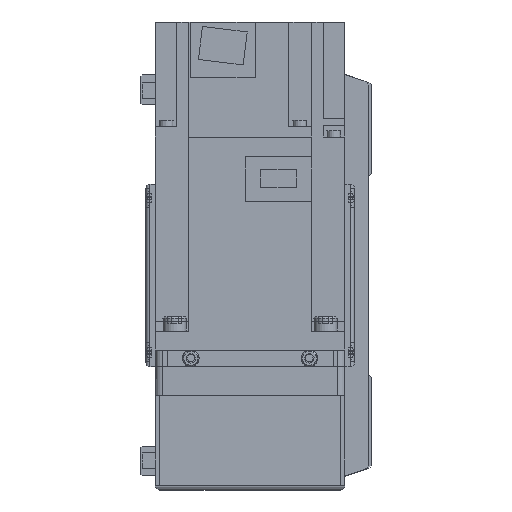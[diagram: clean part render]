
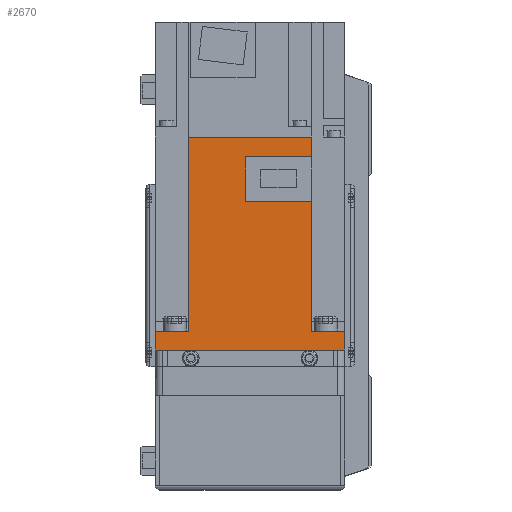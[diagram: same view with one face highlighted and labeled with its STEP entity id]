
A CAD part, left-side view. The second image highlights one B-rep face of the part: STEP entity #2670.
In plain terms, the highlighted planar face has unit normal (-1, 0, 0) as drawn and (1, 0, 0) by its records, which use the part's own axes.
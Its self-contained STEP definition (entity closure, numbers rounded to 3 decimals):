
#2670 = ADVANCED_FACE( '', ( #5922 ), #5923, .F. );
#5922 = FACE_OUTER_BOUND( '', #9726, .T. );
#5923 = PLANE( '', #9727 );
#9726 = EDGE_LOOP( '', ( #17213, #17214, #17215, #17216, #17217, #17218, #17219, #17220, #17221, #17222, #17223, #17224 ) );
#9727 = AXIS2_PLACEMENT_3D( '', #17225, #17226, #17227 );
#17213 = ORIENTED_EDGE( '', *, *, #21627, .F. );
#17214 = ORIENTED_EDGE( '', *, *, #23339, .F. );
#17215 = ORIENTED_EDGE( '', *, *, #21768, .F. );
#17216 = ORIENTED_EDGE( '', *, *, #21505, .T. );
#17217 = ORIENTED_EDGE( '', *, *, #24167, .F. );
#17218 = ORIENTED_EDGE( '', *, *, #23346, .T. );
#17219 = ORIENTED_EDGE( '', *, *, #24168, .T. );
#17220 = ORIENTED_EDGE( '', *, *, #23383, .F. );
#17221 = ORIENTED_EDGE( '', *, *, #24169, .F. );
#17222 = ORIENTED_EDGE( '', *, *, #23340, .F. );
#17223 = ORIENTED_EDGE( '', *, *, #24170, .F. );
#17224 = ORIENTED_EDGE( '', *, *, #24171, .F. );
#17225 = CARTESIAN_POINT( '', ( 40., 89.8, 40. ) );
#17226 = DIRECTION( '', ( -1., 0., 0. ) );
#17227 = DIRECTION( '', ( 0., 0., 1. ) );
#21505 = EDGE_CURVE( '', #25596, #25594, #25597, .T. );
#21627 = EDGE_CURVE( '', #25808, #25810, #25811, .T. );
#21768 = EDGE_CURVE( '', #25596, #26055, #26058, .T. );
#23339 = EDGE_CURVE( '', #26055, #25808, #28583, .T. );
#23340 = EDGE_CURVE( '', #26878, #28584, #28585, .T. );
#23346 = EDGE_CURVE( '', #28593, #28591, #28594, .T. );
#23383 = EDGE_CURVE( '', #28652, #28654, #28655, .T. );
#24167 = EDGE_CURVE( '', #28593, #25594, #29773, .T. );
#24168 = EDGE_CURVE( '', #28591, #28654, #29774, .T. );
#24169 = EDGE_CURVE( '', #28584, #28652, #29775, .T. );
#24170 = EDGE_CURVE( '', #29776, #26878, #29777, .T. );
#24171 = EDGE_CURVE( '', #25810, #29776, #29778, .T. );
#25594 = VERTEX_POINT( '', #31737 );
#25596 = VERTEX_POINT( '', #31740 );
#25597 = LINE( '', #31741, #31742 );
#25808 = VERTEX_POINT( '', #32016 );
#25810 = VERTEX_POINT( '', #32019 );
#25811 = LINE( '', #32020, #32021 );
#26055 = VERTEX_POINT( '', #32399 );
#26058 = LINE( '', #32404, #32405 );
#26878 = VERTEX_POINT( '', #33643 );
#28583 = LINE( '', #36234, #36235 );
#28584 = VERTEX_POINT( '', #36236 );
#28585 = LINE( '', #36237, #36238 );
#28591 = VERTEX_POINT( '', #36247 );
#28593 = VERTEX_POINT( '', #36250 );
#28594 = LINE( '', #36251, #36252 );
#28652 = VERTEX_POINT( '', #36330 );
#28654 = VERTEX_POINT( '', #36333 );
#28655 = LINE( '', #36334, #36335 );
#29773 = LINE( '', #38426, #38427 );
#29774 = LINE( '', #38428, #38429 );
#29775 = LINE( '', #38430, #38431 );
#29776 = VERTEX_POINT( '', #38432 );
#29777 = LINE( '', #38433, #38434 );
#29778 = LINE( '', #38435, #38436 );
#31737 = CARTESIAN_POINT( '', ( 40., 8., 25.95 ) );
#31740 = CARTESIAN_POINT( '', ( 40., 89.8, 25.95 ) );
#31741 = CARTESIAN_POINT( '', ( 40., 158., 25.95 ) );
#31742 = VECTOR( '', #40290, 1000. );
#32016 = CARTESIAN_POINT( '', ( 40., 81.4, -25.95 ) );
#32019 = CARTESIAN_POINT( '', ( 40., 81.4, 1.8 ) );
#32020 = CARTESIAN_POINT( '', ( 40., 81.4, -26. ) );
#32021 = VECTOR( '', #40468, 1000. );
#32399 = CARTESIAN_POINT( '', ( 40., 89.8, -25.95 ) );
#32404 = CARTESIAN_POINT( '', ( 40., 89.8, 40. ) );
#32405 = VECTOR( '', #40656, 1000. );
#33643 = CARTESIAN_POINT( '', ( 40., 62.8, -25.95 ) );
#36234 = CARTESIAN_POINT( '', ( 40., 158., -25.95 ) );
#36235 = VECTOR( '', #42633, 1000. );
#36236 = CARTESIAN_POINT( '', ( 40., 8., -25.95 ) );
#36237 = CARTESIAN_POINT( '', ( 40., 158., -25.95 ) );
#36238 = VECTOR( '', #42634, 1000. );
#36247 = CARTESIAN_POINT( '', ( 40., 0., 40. ) );
#36250 = CARTESIAN_POINT( '', ( 40., 8., 40. ) );
#36251 = CARTESIAN_POINT( '', ( 40., 89.8, 40. ) );
#36252 = VECTOR( '', #42639, 1000. );
#36330 = CARTESIAN_POINT( '', ( 40., 8., -40. ) );
#36333 = CARTESIAN_POINT( '', ( 40., 0., -40. ) );
#36334 = CARTESIAN_POINT( '', ( 40., 89.8, -40. ) );
#36335 = VECTOR( '', #42694, 1000. );
#38426 = CARTESIAN_POINT( '', ( 40., 8., 40. ) );
#38427 = VECTOR( '', #43607, 1000. );
#38428 = CARTESIAN_POINT( '', ( 40., 0., 40. ) );
#38429 = VECTOR( '', #43608, 1000. );
#38430 = CARTESIAN_POINT( '', ( 40., 8., 40. ) );
#38431 = VECTOR( '', #43609, 1000. );
#38432 = CARTESIAN_POINT( '', ( 40., 62.8, 1.8 ) );
#38433 = CARTESIAN_POINT( '', ( 40., 62.8, 1.8 ) );
#38434 = VECTOR( '', #43610, 1000. );
#38435 = CARTESIAN_POINT( '', ( 40., 81.4, 1.8 ) );
#38436 = VECTOR( '', #43611, 1000. );
#40290 = DIRECTION( '', ( 0., -1., 0. ) );
#40468 = DIRECTION( '', ( 0., 0., 1. ) );
#40656 = DIRECTION( '', ( 0., 0., -1. ) );
#42633 = DIRECTION( '', ( 0., -1., 0. ) );
#42634 = DIRECTION( '', ( 0., -1., 0. ) );
#42639 = DIRECTION( '', ( 0., -1., 0. ) );
#42694 = DIRECTION( '', ( 0., -1., 0. ) );
#43607 = DIRECTION( '', ( 0., 0., -1. ) );
#43608 = DIRECTION( '', ( 0., 0., -1. ) );
#43609 = DIRECTION( '', ( 0., 0., -1. ) );
#43610 = DIRECTION( '', ( 0., 0., -1. ) );
#43611 = DIRECTION( '', ( 0., -1., 0. ) );
